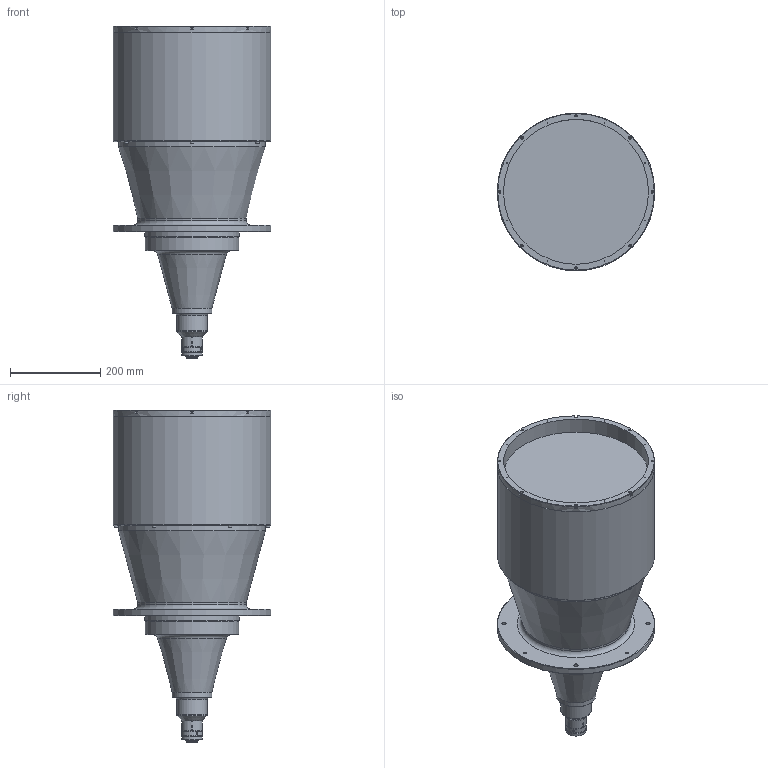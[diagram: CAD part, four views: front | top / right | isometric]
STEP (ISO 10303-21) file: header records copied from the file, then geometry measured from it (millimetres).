
FILE_DESCRIPTION (( 'STEP AP203' ), '1' );
FILE_NAME ('3d_mtl-31011C-004_a002.STEP', '2017-06-15T04:32:22', ( '' ), ( '' ), 'SwSTEP 2.0', 'SolidWorks 2014', '' );
FILE_SCHEMA (( 'CONFIG_CONTROL_DESIGN' ));
Length unit declared in the file: millimetre
Products named in the file (1): 3d_mtl-31011C-004_a002
Bounding box: 350 x 350 x 737.61 mm (x, y, z)
Volume: 38343909 mm3; surface area: 846746.4 mm2
Topology: 1 solids, 9 shells, 1004 faces, 2319 edges, 1412 vertices
Faces by surface type: plane 639, cone 204, cylinder 109, torus 44, sphere 8
Full cylindrical faces by diameter (mm): 1.5 x8, 1.6 x4, 2.5 x3, 3.5 x8, 3.6 x3, 3.8 x3, 4.4 x3, 5.5 x8, 6.8 x4, 7 x4, 8 x4, 8.5 x10, 9 x4, 10 x4, 16.5 x1, 20 x1, 21.5 x1, 22.5 x1, 24 x1, 24.5 x1, 24.7 x1, 25 x1, 25.4 x1, 27 x1, 30 x2, 42.304 x1, 44 x1, 45 x2, 46 x1, 68 x2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
Entity records: 27118 total; most frequent: CARTESIAN_POINT 5645, DIRECTION 4611, ORIENTED_EDGE 3982, EDGE_CURVE 1991, AXIS2_PLACEMENT_3D 1796, EDGE_LOOP 1347, VERTEX_POINT 1316, FACE_OUTER_BOUND 1155
